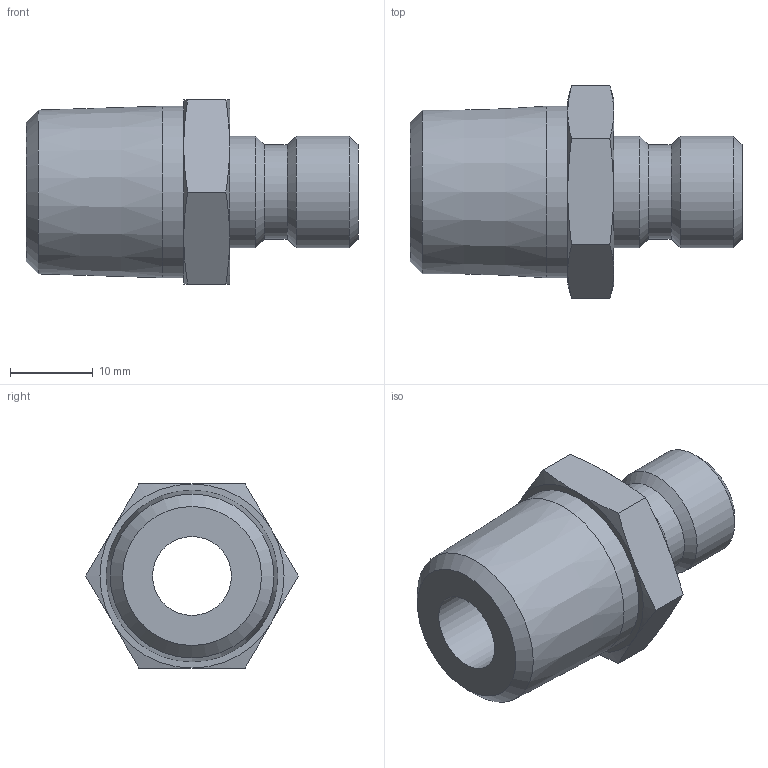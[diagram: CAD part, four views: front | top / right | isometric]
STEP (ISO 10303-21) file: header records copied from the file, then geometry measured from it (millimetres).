
FILE_DESCRIPTION(/* description */ ('STEP AP214'),/* implementation_level */ '2;1');
FILE_NAME(/* name */ 'JP-354',/* time_stamp */ '2024-12-19T08:35:19+01:00',/* author */ ('License CC BY-ND 4.0'),/* organization */ ('CADENAS'),/* preprocessor_version */ 'ST-DEVELOPER v19.3',/* originating_system */ 'PARTsolutions',/* authorisation */ ' ');
FILE_SCHEMA (('AUTOMOTIVE_DESIGN {1 0 10303 214 3 1 1}'));
Length unit declared in the file: inch
Products named in the file (1): JP-354
Bounding box: 40.08 x 25.66 x 22.23 mm (x, y, z)
Volume: 7620.2 mm3; surface area: 4081.7 mm2
Topology: 1 solids, 1 shells, 32 faces, 65 edges, 37 vertices
Faces by surface type: cone 17, plane 10, cylinder 5
Full cylindrical faces by diameter (mm): 9.525 x1, 11.351 x1, 13.513 x2, 20.716 x1
Entity records: 832 total; most frequent: CARTESIAN_POINT 197, DIRECTION 122, ORIENTED_EDGE 110, AXIS2_PLACEMENT_3D 58, EDGE_CURVE 55, EDGE_LOOP 46, FACE_BOUND 46, VERTEX_POINT 37
